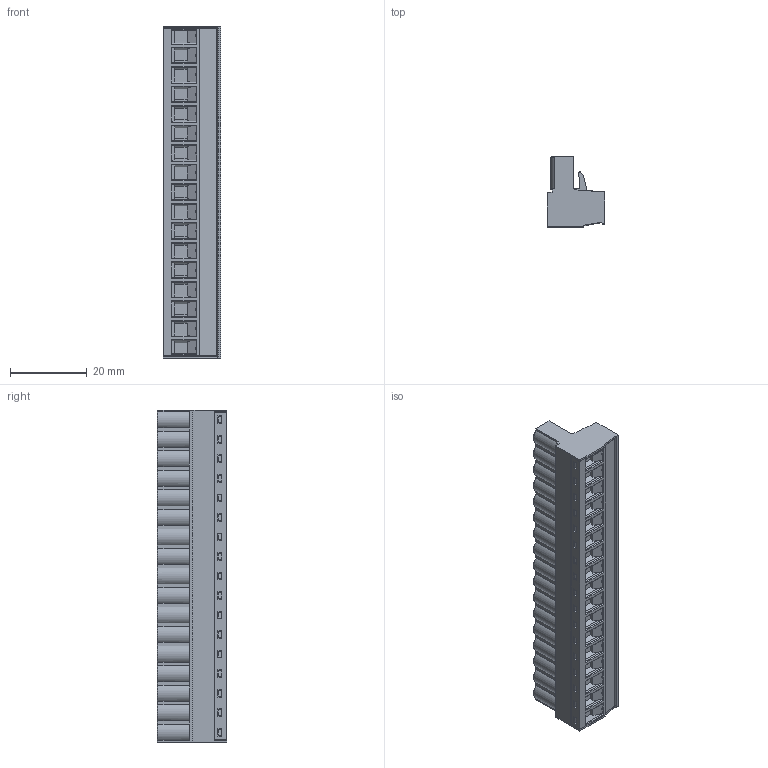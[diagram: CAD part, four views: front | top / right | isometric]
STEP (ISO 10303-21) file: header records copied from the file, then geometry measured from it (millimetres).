
FILE_DESCRIPTION (( 'STEP AP203' ), '1' );
FILE_NAME ('BR8F1-17.STEP', '2020-03-04T02:19:19', ( '' ), ( '' ), 'SwSTEP 2.0', 'SolidWorks 2019', '' );
FILE_SCHEMA (( 'CONFIG_CONTROL_DESIGN' ));
Products named in the file (1): BR8F1-17
Bounding box: 15.05 x 18.1 x 86.36 mm (x, y, z)
Volume: 13707.8 mm3; surface area: 11255.9 mm2
Topology: 1 solids, 1 shells, 2197 faces, 5839 edges, 3746 vertices
Faces by surface type: plane 1345, cylinder 546, cone 136, torus 102, sphere 68
Entity records: 69310 total; most frequent: CARTESIAN_POINT 14039, ORIENTED_EDGE 11678, DIRECTION 11231, EDGE_CURVE 5839, LINE 4227, VECTOR 4227, VERTEX_POINT 3746, AXIS2_PLACEMENT_3D 3502
